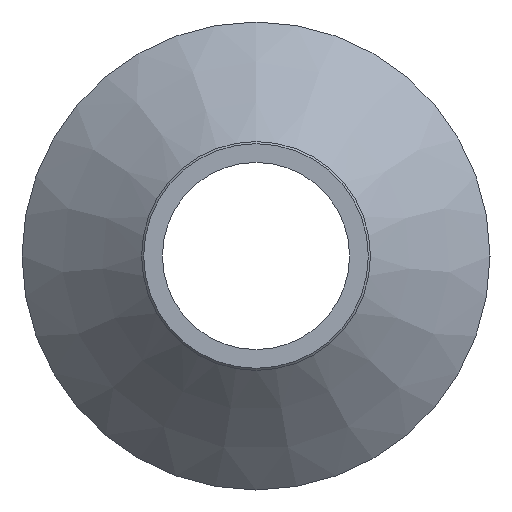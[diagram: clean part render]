
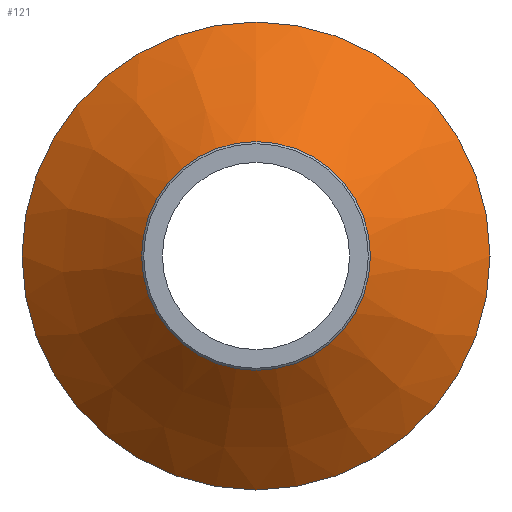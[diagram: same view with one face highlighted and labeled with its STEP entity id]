
A CAD part, left-side view. The second image highlights one B-rep face of the part: STEP entity #121.
In plain terms, the highlighted conical face has half-angle 47.875 degrees and reference radius 112.5 mm.
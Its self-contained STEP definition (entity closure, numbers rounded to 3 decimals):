
#22=CONICAL_SURFACE('',#146,112.5,0.836);
#28=ORIENTED_EDGE('',*,*,#48,.F.);
#29=ORIENTED_EDGE('',*,*,#47,.T.);
#47=EDGE_CURVE('',#57,#57,#67,.T.);
#48=EDGE_CURVE('',#58,#58,#68,.T.);
#57=VERTEX_POINT('',#210);
#58=VERTEX_POINT('',#213);
#67=CIRCLE('',#145,112.5);
#68=CIRCLE('',#147,55.);
#78=EDGE_LOOP('',(#28));
#79=EDGE_LOOP('',(#29));
#98=FACE_BOUND('',#78,.T.);
#99=FACE_BOUND('',#79,.T.);
#121=ADVANCED_FACE('',(#98,#99),#22,.T.);
#145=AXIS2_PLACEMENT_3D('',#209,#169,#170);
#146=AXIS2_PLACEMENT_3D('',#211,#171,#172);
#147=AXIS2_PLACEMENT_3D('',#212,#173,#174);
#169=DIRECTION('',(-1.,0.,0.));
#170=DIRECTION('',(0.,0.,1.));
#171=DIRECTION('',(1.,0.,0.));
#172=DIRECTION('',(0.,0.,-1.));
#173=DIRECTION('',(-1.,0.,0.));
#174=DIRECTION('',(0.,0.,1.));
#209=CARTESIAN_POINT('',(26.,0.,0.));
#210=CARTESIAN_POINT('',(26.,0.,112.5));
#211=CARTESIAN_POINT('',(26.,0.,0.));
#212=CARTESIAN_POINT('',(-26.,0.,0.));
#213=CARTESIAN_POINT('',(-26.,0.,55.));
